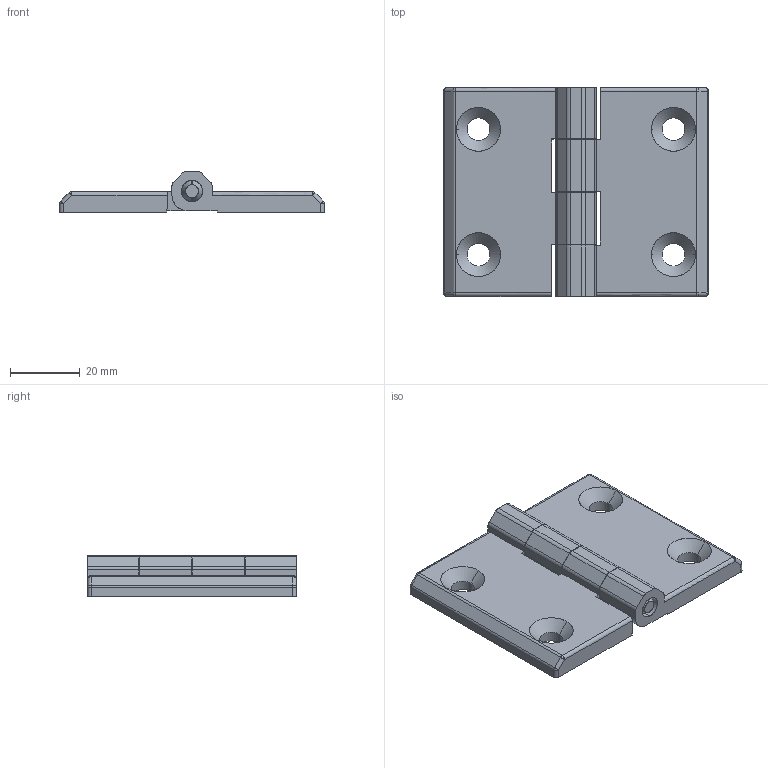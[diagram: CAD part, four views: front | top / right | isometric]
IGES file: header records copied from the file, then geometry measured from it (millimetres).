
Start section: SolidWorks IGES file using analytic representation for surfaces
Global section: file name: E:\DATA FOLDER FOR WEB-2015\'D' SECTION\IGS\DHFM-76.IGS; native system: SolidWorks 2015; preprocessor: SolidWorks 2015; author: solidworksqc; date: 151014.141606; units: millimetre
Bounding box: 76 x 60 x 11.8 mm (x, y, z)
Surface area: 13353.2 mm2 (no closed solid volume)
Topology: 0 solids, 0 shells, 154 faces, 1766 edges, 1758 vertices
Faces by surface type: revolution 84, bspline 70
